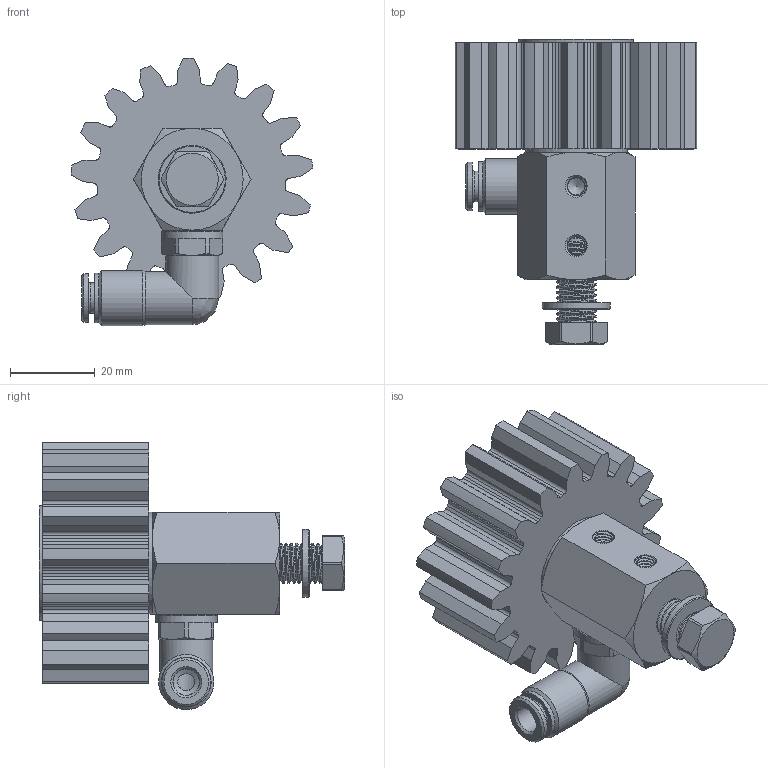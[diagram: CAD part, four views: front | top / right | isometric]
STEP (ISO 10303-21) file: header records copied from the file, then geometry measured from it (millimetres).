
FILE_DESCRIPTION (( 'STEP AP214' ), '1' );
FILE_NAME ('012_13_03_25_17BZ.STEP', '2026-04-08T12:14:36', ( '' ), ( '' ), 'SwSTEP 2.0', 'SolidWorks 2022', '' );
FILE_SCHEMA (( 'AUTOMOTIVE_DESIGN' ));
Length unit declared in the file: millimetre
Products named in the file (13): 012_06_Senkschraube; Schraube_M8_20; H202242_HDS022_6_M10X1_08.05.17(1); OR 7.2X1.9_1; 012_13_03_25_17BZ; DR6-C_HDX_25.07.16_1; Schmierzahnrad_03_25_17G; 12012_06_01_Scheibe-CRS-VA_27.SLDASM; U_Scheibe_8,4; RH202242; 12012_06_00_Scheibe-CRS-VA.SLDASM; 012_13b_01_winklige_Achse_lang_M8_1; RIVOLUZIONE_0_2
Assembly tree (12 placements, depth 3):
  012_13_03_25_17BZ
    012_13b_01_winklige_Achse_lang_M8_1
    Schraube_M8_20
    U_Scheibe_8,4
    H202242_HDS022_6_M10X1_08.05.17(1)
      OR 7.2X1.9_1
      RH202242
      DR6-C_HDX_25.07.16_1
      RIVOLUZIONE_0_2
    12012_06_00_Scheibe-CRS-VA.SLDASM
    12012_06_01_Scheibe-CRS-VA_27.SLDASM
    012_06_Senkschraube
    Schmierzahnrad_03_25_17G
Bounding box: 56.87 x 71.9 x 63 mm (x, y, z)
Volume: 70924.4 mm3; surface area: 25479.6 mm2
Topology: 11 solids, 11 shells, 700 faces, 1911 edges, 1267 vertices
Faces by surface type: plane 420, bspline 116, cylinder 107, cone 54, torus 3
Full cylindrical faces by diameter (mm): 3 x1, 4 x2, 5.5 x1, 6 x1, 6.2 x1, 6.3 x1, 6.5 x1, 7.2 x1, 8.4 x1, 8.5 x1, 9 x10, 9.9 x1, 10 x3, 10.1 x2, 10.3 x1, 11.5 x1, 11.7 x1, 12.5 x2, 13 x1, 14.5 x1, 16 x1, 24 x1, 27 x1
Entity records: 44016 total; most frequent: CARTESIAN_POINT 26665, ORIENTED_EDGE 3526, DIRECTION 2825, EDGE_CURVE 1763, VERTEX_POINT 1202, VECTOR 1147, LINE 1147, AXIS2_PLACEMENT_3D 839
